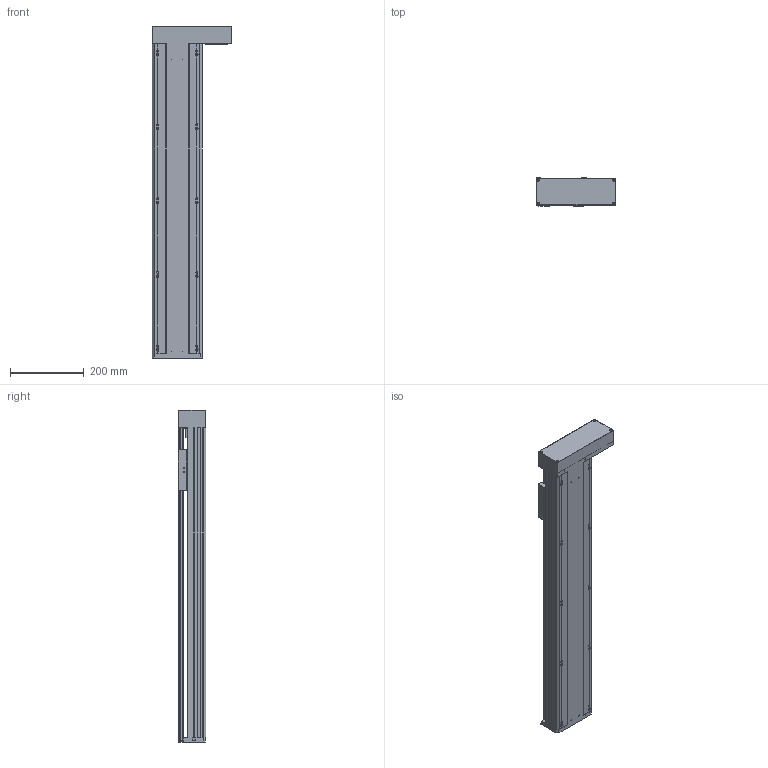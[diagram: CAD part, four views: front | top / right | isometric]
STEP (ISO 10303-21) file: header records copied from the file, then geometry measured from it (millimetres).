
FILE_DESCRIPTION(/* description */ (''),/* implementation_level */ '2;1');
FILE_NAME(/* name */ 'TKA136-FR-650_asm1.stp',/* time_stamp */ '2016-05-07T14:38:27+08:00',/* author */ (''),/* organization */ (''),/* preprocessor_version */ 'ST-DEVELOPER v15',/* originating_system */ 'SIEMENS PLM Software NX 8.5',/* authorisation */ '');
FILE_SCHEMA (('AUTOMOTIVE_DESIGN { 1 0 10303 214 3 1 1 1 }'));
Length unit declared in the file: millimetre
Products named in the file (3): 100-02; 100-01; TKA136-FR-650_asm1
Assembly tree (2 placements, depth 2):
  TKA136-FR-650_asm1
    100-01
    100-02
Bounding box: 216 x 75 x 900 mm (x, y, z)
Volume: 2853379.5 mm3; surface area: 1112415.4 mm2
Topology: 2 solids, 12 shells, 881 faces, 2484 edges, 1625 vertices
Faces by surface type: plane 415, cylinder 413, cone 53
Full cylindrical faces by diameter (mm): 2.5 x4, 3 x2, 3.3 x15, 4 x4, 4.2 x14, 4.5 x26, 5 x14, 5.5 x26, 6.6 x14, 8 x20, 10 x9, 10.5 x10, 11 x4, 11.6 x1, 12 x9, 15 x3, 16 x5, 17 x1, 24 x5, 26 x1, 28 x1, 46 x2, 50 x1
Entity records: 29337 total; most frequent: CARTESIAN_POINT 7748, DIRECTION 4487, ORIENTED_EDGE 4178, EDGE_CURVE 2089, AXIS2_PLACEMENT_3D 1709, VERTEX_POINT 1499, EDGE_LOOP 1297, LINE 1069
